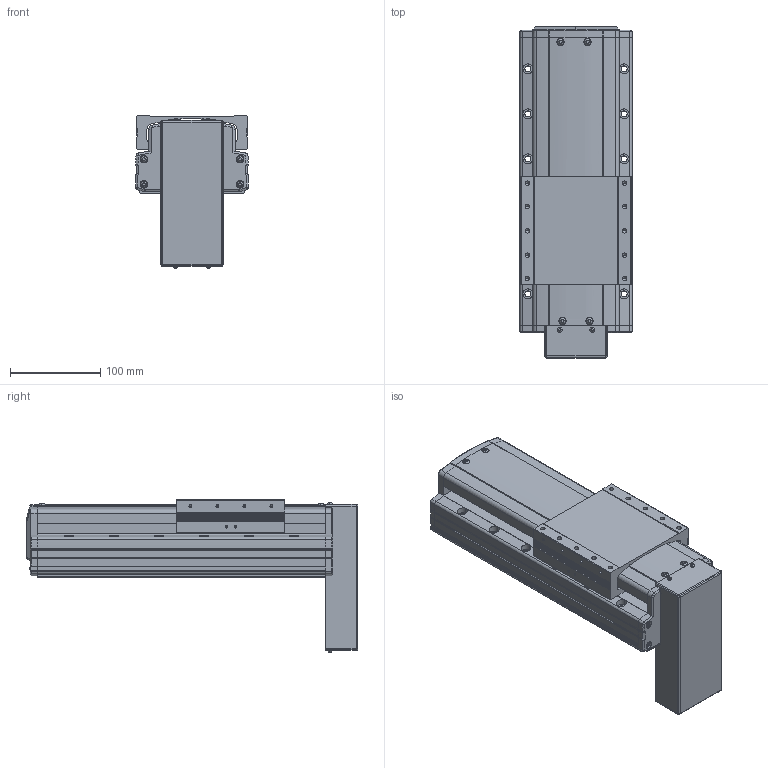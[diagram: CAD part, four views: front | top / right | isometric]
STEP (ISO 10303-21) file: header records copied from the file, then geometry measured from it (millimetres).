
FILE_DESCRIPTION(('STEP AP214'),'1');
FILE_NAME('Z:/Web/3D/PSA125/STP/PSA125-100 (3D)/PSA125ㅁㅁ-100PB.stp','2014-06-20T08:40:00',(' '),(' '),'Spatial InterOp 3D',' ',' ');
FILE_SCHEMA(('automotive_design'));
Length unit declared in the file: millimetre
Products named in the file (29): 스크루 : Round - M4.0 x 10.0; RRCV-PA120; SLIDE; BASE; FRCV-PA120-1(기준 뿔 제거); RR1500; 스크루 : Round - M4.0 x 6.0; 너트 : Square - M10.0 x 220.7419; 1; 2; 파트105; 스크루 : Round - M3.0 x 6.0
Bounding box: 125 x 368.6 x 169.06 mm (x, y, z)
Volume: 3333469.4 mm3; surface area: 352594.8 mm2
Topology: 29 solids, 29 shells, 2036 faces, 5411 edges, 3451 vertices
Faces by surface type: plane 1130, cylinder 572, cone 218, sphere 52, torus 33, bspline 31
Entity records: 81402 total; most frequent: CARTESIAN_POINT 13556, DIRECTION 10806, ORIENTED_EDGE 10598, EDGE_CURVE 5299, AXIS2_PLACEMENT_3D 3629, LINE 3548, VECTOR 3548, VERTEX_POINT 3451
